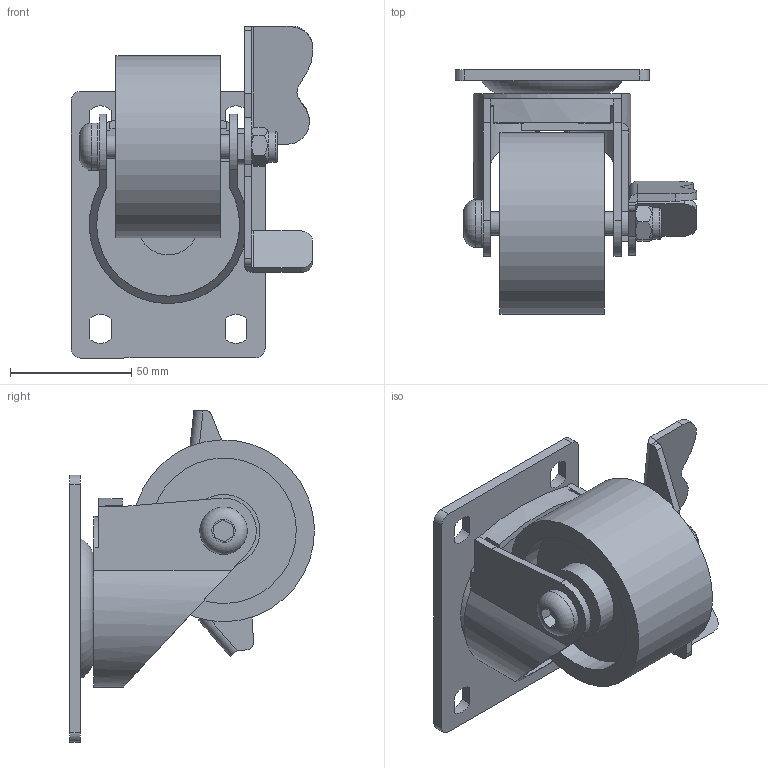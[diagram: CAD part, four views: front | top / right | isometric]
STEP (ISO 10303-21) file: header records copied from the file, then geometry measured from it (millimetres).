
FILE_DESCRIPTION (( 'STEP AP203' ), '1' );
FILE_NAME ('F-3202 止付輪座.stp', '2022-05-03T01:24:47', ( '' ), ( '' ), 'SwSTEP 2.0', 'SolidWorks 2020', '' );
FILE_SCHEMA (( 'CONFIG_CONTROL_DESIGN' ));
Length unit declared in the file: millimetre
Products named in the file (1): F-3202 止付輪座
Bounding box: 99.69 x 100.98 x 136.91 mm (x, y, z)
Volume: 252677.8 mm3; surface area: 82509.6 mm2
Topology: 4 solids, 5 shells, 184 faces, 467 edges, 302 vertices
Faces by surface type: plane 104, cylinder 57, cone 8, torus 8, bspline 7
Full cylindrical faces by diameter (mm): 9.6 x9, 10 x1, 13 x1, 15 x1, 18.6 x1, 19.6 x1, 25 x1, 30 x2, 60 x2, 75 x1
Entity records: 10098 total; most frequent: CARTESIAN_POINT 5916, ORIENTED_EDGE 834, DIRECTION 818, EDGE_CURVE 417, AXIS2_PLACEMENT_3D 285, VERTEX_POINT 282, VECTOR 248, LINE 248
